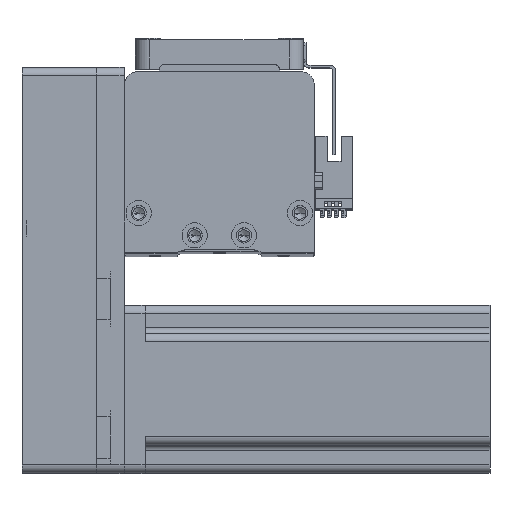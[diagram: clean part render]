
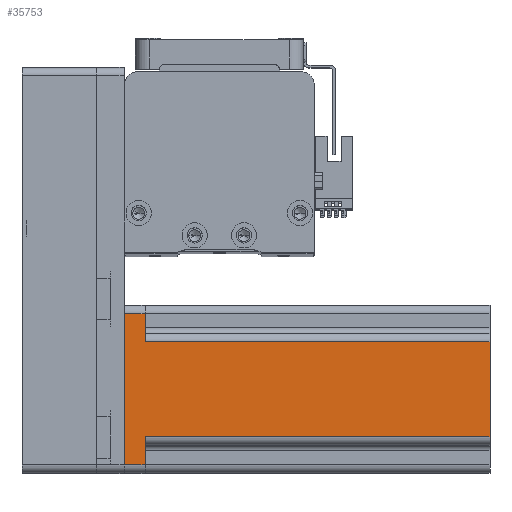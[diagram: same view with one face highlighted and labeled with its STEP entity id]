
A CAD part, top view. The second image highlights one B-rep face of the part: STEP entity #35753.
In plain terms, the highlighted planar face has unit normal (0, 0, 1) as drawn and (0, -1, 0) by its records, which use the part's own axes.
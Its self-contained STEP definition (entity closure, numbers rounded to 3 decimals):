
#11 = CARTESIAN_POINT ( 'NONE',  ( 17., -30., 7.5 ) ) ;
#595 = VECTOR ( 'NONE', #27851, 1000. ) ;
#927 = EDGE_CURVE ( 'NONE', #11448, #26171, #42140, .T. ) ;
#1073 = VERTEX_POINT ( 'NONE', #11 ) ;
#1652 = LINE ( 'NONE', #41534, #595 ) ;
#2357 = EDGE_CURVE ( 'NONE', #6893, #31007, #3940, .T. ) ;
#3478 = CARTESIAN_POINT ( 'NONE',  ( -27., -30., 0. ) ) ;
#3940 = LINE ( 'NONE', #31896, #38181 ) ;
#4219 = VECTOR ( 'NONE', #30537, 1000. ) ;
#5041 = LINE ( 'NONE', #31995, #13064 ) ;
#5243 = FACE_OUTER_BOUND ( 'NONE', #33983, .T. ) ;
#5271 = LINE ( 'NONE', #27120, #4219 ) ;
#5994 = ORIENTED_EDGE ( 'NONE', *, *, #2357, .T. ) ;
#6669 = ORIENTED_EDGE ( 'NONE', *, *, #13835, .T. ) ;
#6893 = VERTEX_POINT ( 'NONE', #30343 ) ;
#7233 = ORIENTED_EDGE ( 'NONE', *, *, #15994, .F. ) ;
#8197 = CARTESIAN_POINT ( 'NONE',  ( -20., -30., 7.5 ) ) ;
#8507 = LINE ( 'NONE', #15712, #34692 ) ;
#8908 = AXIS2_PLACEMENT_3D ( 'NONE', #30213, #9781, #33682 ) ;
#9173 = ORIENTED_EDGE ( 'NONE', *, *, #30504, .T. ) ;
#9781 = DIRECTION ( 'NONE',  ( 0., 1., 0. ) ) ;
#10312 = VECTOR ( 'NONE', #35540, 1000. ) ;
#11448 = VERTEX_POINT ( 'NONE', #29549 ) ;
#11458 = DIRECTION ( 'NONE',  ( 0., 0., -1. ) ) ;
#11556 = DIRECTION ( 'NONE',  ( 0., 0., -1. ) ) ;
#13064 = VECTOR ( 'NONE', #11556, 1000. ) ;
#13137 = ORIENTED_EDGE ( 'NONE', *, *, #38649, .T. ) ;
#13835 = EDGE_CURVE ( 'NONE', #24923, #35508, #35109, .T. ) ;
#13845 = ORIENTED_EDGE ( 'NONE', *, *, #37648, .T. ) ;
#15430 = DIRECTION ( 'NONE',  ( 1., 0., 0. ) ) ;
#15712 = CARTESIAN_POINT ( 'NONE',  ( 30., -30., 0. ) ) ;
#15994 = EDGE_CURVE ( 'NONE', #6893, #28544, #36515, .T. ) ;
#18968 = CARTESIAN_POINT ( 'NONE',  ( 27., -30., 0. ) ) ;
#19148 = DIRECTION ( 'NONE',  ( 1., 0., 0. ) ) ;
#21352 = EDGE_CURVE ( 'NONE', #31007, #24923, #8507, .T. ) ;
#22798 = DIRECTION ( 'NONE',  ( 0., 0., 1. ) ) ;
#23900 = VECTOR ( 'NONE', #15430, 1000. ) ;
#24923 = VERTEX_POINT ( 'NONE', #18968 ) ;
#25350 = CARTESIAN_POINT ( 'NONE',  ( 27., -30., 7.5 ) ) ;
#26171 = VERTEX_POINT ( 'NONE', #26290 ) ;
#26290 = CARTESIAN_POINT ( 'NONE',  ( 17., -30., 130.7 ) ) ;
#26657 = PLANE ( 'NONE',  #8908 ) ;
#27120 = CARTESIAN_POINT ( 'NONE',  ( 20., -30., 7.5 ) ) ;
#27851 = DIRECTION ( 'NONE',  ( 0., 0., 1. ) ) ;
#28544 = VERTEX_POINT ( 'NONE', #28550 ) ;
#28550 = CARTESIAN_POINT ( 'NONE',  ( -17., -30., 7.5 ) ) ;
#29549 = CARTESIAN_POINT ( 'NONE',  ( -17., -30., 130.7 ) ) ;
#30213 = CARTESIAN_POINT ( 'NONE',  ( 30., -30., 130.7 ) ) ;
#30343 = CARTESIAN_POINT ( 'NONE',  ( -27., -30., 7.5 ) ) ;
#30504 = EDGE_CURVE ( 'NONE', #1073, #26171, #1652, .T. ) ;
#30537 = DIRECTION ( 'NONE',  ( -1., 0., 0. ) ) ;
#31007 = VERTEX_POINT ( 'NONE', #3478 ) ;
#31896 = CARTESIAN_POINT ( 'NONE',  ( -27., -30., 130.7 ) ) ;
#31995 = CARTESIAN_POINT ( 'NONE',  ( -17., -30., 130.7 ) ) ;
#33682 = DIRECTION ( 'NONE',  ( -1., 0., 0. ) ) ;
#33983 = EDGE_LOOP ( 'NONE', ( #41226, #13845, #7233, #5994, #38756, #6669, #13137, #9173 ) ) ;
#34692 = VECTOR ( 'NONE', #19148, 1000. ) ;
#35109 = LINE ( 'NONE', #39879, #44233 ) ;
#35508 = VERTEX_POINT ( 'NONE', #25350 ) ;
#35540 = DIRECTION ( 'NONE',  ( 1., 0., 0. ) ) ;
#35753 = ADVANCED_FACE ( 'NONE', ( #5243 ), #26657, .F. ) ;
#36515 = LINE ( 'NONE', #8197, #10312 ) ;
#36767 = CARTESIAN_POINT ( 'NONE',  ( 30., -30., 130.7 ) ) ;
#37648 = EDGE_CURVE ( 'NONE', #11448, #28544, #5041, .T. ) ;
#38181 = VECTOR ( 'NONE', #11458, 1000. ) ;
#38649 = EDGE_CURVE ( 'NONE', #35508, #1073, #5271, .T. ) ;
#38756 = ORIENTED_EDGE ( 'NONE', *, *, #21352, .T. ) ;
#39879 = CARTESIAN_POINT ( 'NONE',  ( 27., -30., 130.7 ) ) ;
#41226 = ORIENTED_EDGE ( 'NONE', *, *, #927, .F. ) ;
#41534 = CARTESIAN_POINT ( 'NONE',  ( 17., -30., 130.7 ) ) ;
#42140 = LINE ( 'NONE', #36767, #23900 ) ;
#44233 = VECTOR ( 'NONE', #22798, 1000. ) ;
